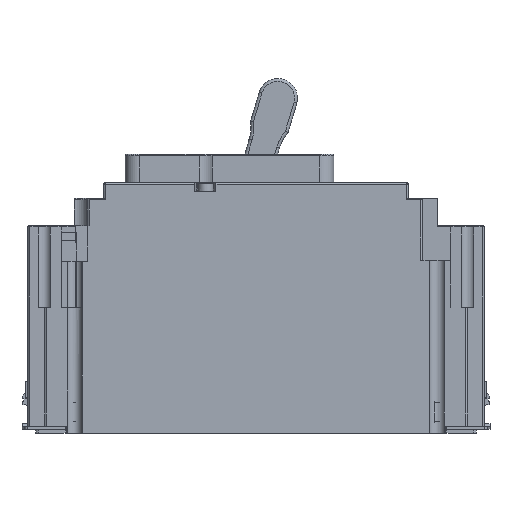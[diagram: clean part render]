
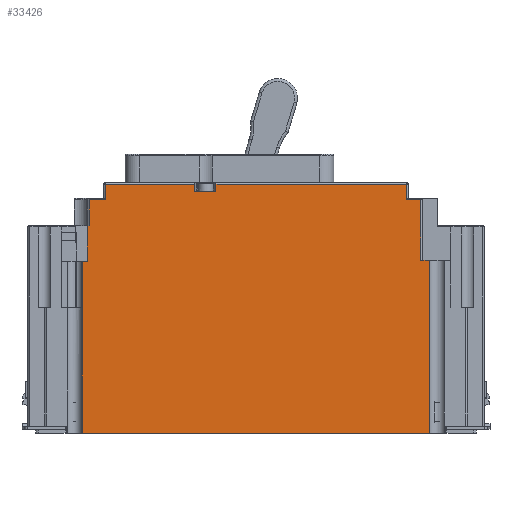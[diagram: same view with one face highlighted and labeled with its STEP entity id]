
A CAD part, left-side view. The second image highlights one B-rep face of the part: STEP entity #33426.
In plain terms, the highlighted planar face has unit normal (-1, 0, 0).
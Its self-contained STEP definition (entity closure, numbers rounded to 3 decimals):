
#1708=DIRECTION('',(0.,0.,1.));
#1709=VECTOR('',#1708,20.85);
#1710=CARTESIAN_POINT('',(0.,23.82,59.65));
#1711=LINE('',#1710,#1709);
#1733=DIRECTION('',(0.,1.,0.));
#1734=VECTOR('',#1733,2.852);
#1735=CARTESIAN_POINT('',(0.,20.968,59.65));
#1736=LINE('',#1735,#1734);
#7918=DIRECTION('',(0.,0.,-1.));
#7919=VECTOR('',#7918,59.65);
#7920=CARTESIAN_POINT('',(0.,20.968,59.65));
#7921=LINE('',#7920,#7919);
#7922=DIRECTION('',(0.,0.,-1.));
#7923=VECTOR('',#7922,59.25);
#7924=CARTESIAN_POINT('',(0.,140.524,59.25));
#7925=LINE('',#7924,#7923);
#7926=DIRECTION('',(0.,1.,0.));
#7927=VECTOR('',#7926,1.804);
#7928=CARTESIAN_POINT('',(0.,138.72,59.25));
#7929=LINE('',#7928,#7927);
#7930=DIRECTION('',(0.,0.,1.));
#7931=VECTOR('',#7930,12.35);
#7932=CARTESIAN_POINT('',(0.,138.72,59.25));
#7933=LINE('',#7932,#7931);
#7934=DIRECTION('',(0.,-1.,0.));
#7935=VECTOR('',#7934,0.57);
#7936=CARTESIAN_POINT('',(0.,138.72,71.6));
#7937=LINE('',#7936,#7935);
#7938=DIRECTION('',(0.,0.,1.));
#7939=VECTOR('',#7938,8.9);
#7940=CARTESIAN_POINT('',(0.,138.15,71.6));
#7941=LINE('',#7940,#7939);
#7942=DIRECTION('',(0.,1.,0.));
#7943=VECTOR('',#7942,5.628);
#7944=CARTESIAN_POINT('',(0.,132.523,80.5));
#7945=LINE('',#7944,#7943);
#7946=DIRECTION('',(0.,0.,-1.));
#7947=VECTOR('',#7946,5.4);
#7948=CARTESIAN_POINT('',(0.,132.523,85.9));
#7949=LINE('',#7948,#7947);
#7950=DIRECTION('',(0.,-1.,0.));
#7951=VECTOR('',#7950,30.885);
#7952=CARTESIAN_POINT('',(0.,132.523,85.9));
#7953=LINE('',#7952,#7951);
#7954=DIRECTION('',(0.,0.,-1.));
#7955=VECTOR('',#7954,2.5);
#7956=CARTESIAN_POINT('',(0.,101.638,85.9));
#7957=LINE('',#7956,#7955);
#7958=DIRECTION('',(0.,1.,0.));
#7959=VECTOR('',#7958,7.236);
#7960=CARTESIAN_POINT('',(0.,94.402,83.4));
#7961=LINE('',#7960,#7959);
#7962=DIRECTION('',(0.,0.,-1.));
#7963=VECTOR('',#7962,2.5);
#7964=CARTESIAN_POINT('',(0.,94.402,85.9));
#7965=LINE('',#7964,#7963);
#7966=DIRECTION('',(0.,1.,0.));
#7967=VECTOR('',#7966,65.685);
#7968=CARTESIAN_POINT('',(0.,28.717,85.9));
#7969=LINE('',#7968,#7967);
#7970=DIRECTION('',(0.,0.,1.));
#7971=VECTOR('',#7970,5.4);
#7972=CARTESIAN_POINT('',(0.,28.717,80.5));
#7973=LINE('',#7972,#7971);
#7974=DIRECTION('',(0.,1.,0.));
#7975=VECTOR('',#7974,4.897);
#7976=CARTESIAN_POINT('',(0.,23.82,80.5));
#7977=LINE('',#7976,#7975);
#8307=DIRECTION('',(0.,-1.,0.));
#8308=VECTOR('',#8307,119.556);
#8309=CARTESIAN_POINT('',(0.,140.524,0.));
#8310=LINE('',#8309,#8308);
#19164=CARTESIAN_POINT('',(0.,138.15,71.6));
#19165=VERTEX_POINT('',#19164);
#20945=CARTESIAN_POINT('',(0.,140.524,0.));
#20946=VERTEX_POINT('',#20945);
#21283=CARTESIAN_POINT('',(0.,94.402,83.4));
#21284=CARTESIAN_POINT('',(0.,101.638,83.4));
#21285=VERTEX_POINT('',#21283);
#21286=VERTEX_POINT('',#21284);
#21451=CARTESIAN_POINT('',(0.,138.15,80.5));
#21453=VERTEX_POINT('',#21451);
#21457=CARTESIAN_POINT('',(0.,132.523,80.5));
#21458=VERTEX_POINT('',#21457);
#21567=CARTESIAN_POINT('',(0.,23.82,80.5));
#21568=CARTESIAN_POINT('',(0.,28.717,80.5));
#21569=VERTEX_POINT('',#21567);
#21570=VERTEX_POINT('',#21568);
#21716=CARTESIAN_POINT('',(0.,101.638,85.9));
#21718=VERTEX_POINT('',#21716);
#21719=CARTESIAN_POINT('',(0.,132.523,85.9));
#21720=VERTEX_POINT('',#21719);
#21725=CARTESIAN_POINT('',(0.,94.402,85.9));
#21727=VERTEX_POINT('',#21725);
#21731=CARTESIAN_POINT('',(0.,28.717,85.9));
#21732=VERTEX_POINT('',#21731);
#22252=CARTESIAN_POINT('',(0.,138.72,59.25));
#22253=VERTEX_POINT('',#22252);
#22274=CARTESIAN_POINT('',(0.,140.524,59.25));
#22275=VERTEX_POINT('',#22274);
#22276=CARTESIAN_POINT('',(0.,138.72,71.6));
#22277=VERTEX_POINT('',#22276);
#22397=CARTESIAN_POINT('',(0.,20.968,59.65));
#22398=CARTESIAN_POINT('',(0.,20.968,0.));
#22399=VERTEX_POINT('',#22397);
#22400=VERTEX_POINT('',#22398);
#23524=CARTESIAN_POINT('',(0.,23.82,59.65));
#23525=VERTEX_POINT('',#23524);
#33392=CARTESIAN_POINT('',(0.,161.24,0.));
#33393=DIRECTION('',(-1.,0.,0.));
#33394=DIRECTION('',(0.,-1.,0.));
#33395=AXIS2_PLACEMENT_3D('',#33392,#33393,#33394);
#33396=PLANE('',#33395);
#33397=ORIENTED_EDGE('',*,*,#25491,.F.);
#33398=ORIENTED_EDGE('',*,*,#25514,.F.);
#33400=ORIENTED_EDGE('',*,*,#33399,.T.);
#33402=ORIENTED_EDGE('',*,*,#33401,.F.);
#33404=ORIENTED_EDGE('',*,*,#33403,.F.);
#33406=ORIENTED_EDGE('',*,*,#33405,.F.);
#33408=ORIENTED_EDGE('',*,*,#33407,.T.);
#33409=ORIENTED_EDGE('',*,*,#25072,.T.);
#33411=ORIENTED_EDGE('',*,*,#33410,.T.);
#33413=ORIENTED_EDGE('',*,*,#33412,.F.);
#33414=ORIENTED_EDGE('',*,*,#33360,.F.);
#33415=ORIENTED_EDGE('',*,*,#33073,.T.);
#33416=ORIENTED_EDGE('',*,*,#33092,.T.);
#33417=ORIENTED_EDGE('',*,*,#33200,.F.);
#33419=ORIENTED_EDGE('',*,*,#33418,.F.);
#33421=ORIENTED_EDGE('',*,*,#33420,.F.);
#33422=ORIENTED_EDGE('',*,*,#25408,.F.);
#33423=ORIENTED_EDGE('',*,*,#25433,.F.);
#33424=EDGE_LOOP('',(#33397,#33398,#33400,#33402,#33404,#33406,#33408,#33409,
#33411,#33413,#33414,#33415,#33416,#33417,#33419,#33421,#33422,#33423));
#33425=FACE_OUTER_BOUND('',#33424,.F.);
#33426=ADVANCED_FACE('',(#33425),#33396,.T.);
#25072=EDGE_CURVE('',#22277,#19165,#7937,.T.);
#25408=EDGE_CURVE('',#21570,#21732,#7973,.T.);
#25433=EDGE_CURVE('',#21569,#21570,#7977,.T.);
#25491=EDGE_CURVE('',#23525,#21569,#1711,.T.);
#25514=EDGE_CURVE('',#22399,#23525,#1736,.T.);
#33073=EDGE_CURVE('',#21720,#21718,#7953,.T.);
#33092=EDGE_CURVE('',#21718,#21286,#7957,.T.);
#33200=EDGE_CURVE('',#21285,#21286,#7961,.T.);
#33360=EDGE_CURVE('',#21720,#21458,#7949,.T.);
#33399=EDGE_CURVE('',#22399,#22400,#7921,.T.);
#33401=EDGE_CURVE('',#20946,#22400,#8310,.T.);
#33403=EDGE_CURVE('',#22275,#20946,#7925,.T.);
#33405=EDGE_CURVE('',#22253,#22275,#7929,.T.);
#33407=EDGE_CURVE('',#22253,#22277,#7933,.T.);
#33410=EDGE_CURVE('',#19165,#21453,#7941,.T.);
#33412=EDGE_CURVE('',#21458,#21453,#7945,.T.);
#33418=EDGE_CURVE('',#21727,#21285,#7965,.T.);
#33420=EDGE_CURVE('',#21732,#21727,#7969,.T.);
